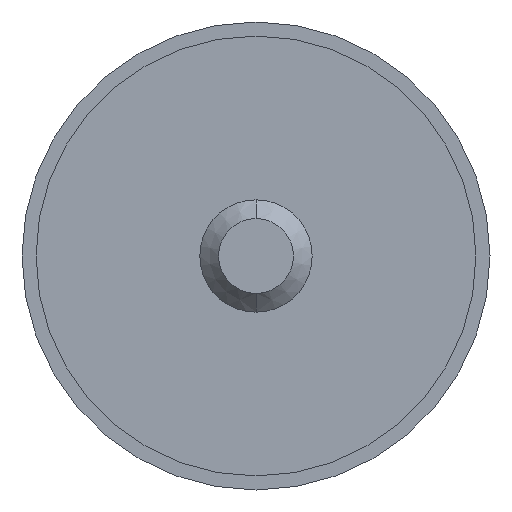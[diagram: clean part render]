
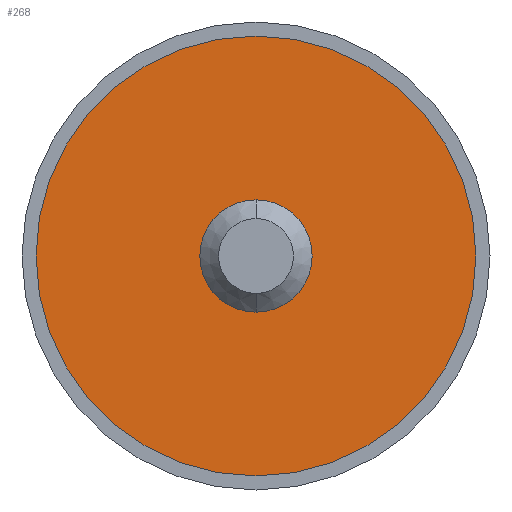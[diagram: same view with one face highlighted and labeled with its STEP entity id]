
A CAD part, front view. The second image highlights one B-rep face of the part: STEP entity #268.
In plain terms, the highlighted planar face has unit normal (0, -1, 0).
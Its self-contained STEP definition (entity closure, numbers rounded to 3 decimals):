
#85 = DIRECTION ( 'NONE',  ( 0., 0., 1. ) ) ;
#268 = ADVANCED_FACE ( 'NONE', ( #3225, #2670 ), #487, .F. ) ;
#487 = PLANE ( 'NONE',  #955 ) ;
#939 = VERTEX_POINT ( 'NONE', #3632 ) ;
#955 = AXIS2_PLACEMENT_3D ( 'NONE', #4104, #4119, #2772 ) ;
#1039 = VERTEX_POINT ( 'NONE', #3959 ) ;
#1043 = DIRECTION ( 'NONE',  ( 0., 0., -1. ) ) ;
#1194 = CIRCLE ( 'NONE', #1958, 3. ) ;
#1280 = AXIS2_PLACEMENT_3D ( 'NONE', #1383, #1714, #85 ) ;
#1383 = CARTESIAN_POINT ( 'NONE',  ( 0., -0.5, 0. ) ) ;
#1599 = AXIS2_PLACEMENT_3D ( 'NONE', #2561, #4199, #1043 ) ;
#1610 = CIRCLE ( 'NONE', #1280, 11.75 ) ;
#1705 = CARTESIAN_POINT ( 'NONE',  ( 0., -0.5, 11.75 ) ) ;
#1714 = DIRECTION ( 'NONE',  ( 0., 1., 0. ) ) ;
#1958 = AXIS2_PLACEMENT_3D ( 'NONE', #2375, #4052, #3766 ) ;
#2076 = EDGE_LOOP ( 'NONE', ( #4273, #3779 ) ) ;
#2375 = CARTESIAN_POINT ( 'NONE',  ( 0., -0.5, 0. ) ) ;
#2476 = CARTESIAN_POINT ( 'NONE',  ( 0., -0.5, -11.75 ) ) ;
#2479 = DIRECTION ( 'NONE',  ( 0., 0., 1. ) ) ;
#2561 = CARTESIAN_POINT ( 'NONE',  ( 0., -0.5, 0. ) ) ;
#2670 = FACE_OUTER_BOUND ( 'NONE', #2076, .T. ) ;
#2772 = DIRECTION ( 'NONE',  ( 0., 0., 1. ) ) ;
#2847 = VERTEX_POINT ( 'NONE', #1705 ) ;
#2974 = CIRCLE ( 'NONE', #1599, 3. ) ;
#3026 = EDGE_CURVE ( 'NONE', #3420, #2847, #3915, .T. ) ;
#3075 = EDGE_CURVE ( 'NONE', #939, #1039, #2974, .T. ) ;
#3126 = ORIENTED_EDGE ( 'NONE', *, *, #3835, .F. ) ;
#3225 = FACE_BOUND ( 'NONE', #4065, .T. ) ;
#3370 = EDGE_CURVE ( 'NONE', #2847, #3420, #1610, .T. ) ;
#3383 = AXIS2_PLACEMENT_3D ( 'NONE', #3449, #3793, #2479 ) ;
#3420 = VERTEX_POINT ( 'NONE', #2476 ) ;
#3449 = CARTESIAN_POINT ( 'NONE',  ( 0., -0.5, 0. ) ) ;
#3499 = ORIENTED_EDGE ( 'NONE', *, *, #3075, .F. ) ;
#3632 = CARTESIAN_POINT ( 'NONE',  ( 0., -0.5, 3. ) ) ;
#3766 = DIRECTION ( 'NONE',  ( 0., 0., -1. ) ) ;
#3779 = ORIENTED_EDGE ( 'NONE', *, *, #3026, .F. ) ;
#3793 = DIRECTION ( 'NONE',  ( 0., 1., 0. ) ) ;
#3835 = EDGE_CURVE ( 'NONE', #1039, #939, #1194, .T. ) ;
#3915 = CIRCLE ( 'NONE', #3383, 11.75 ) ;
#3959 = CARTESIAN_POINT ( 'NONE',  ( 0., -0.5, -3. ) ) ;
#4052 = DIRECTION ( 'NONE',  ( 0., -1., 0. ) ) ;
#4065 = EDGE_LOOP ( 'NONE', ( #3499, #3126 ) ) ;
#4104 = CARTESIAN_POINT ( 'NONE',  ( 0., -0.5, 0. ) ) ;
#4119 = DIRECTION ( 'NONE',  ( 0., 1., 0. ) ) ;
#4199 = DIRECTION ( 'NONE',  ( 0., -1., 0. ) ) ;
#4273 = ORIENTED_EDGE ( 'NONE', *, *, #3370, .F. ) ;
